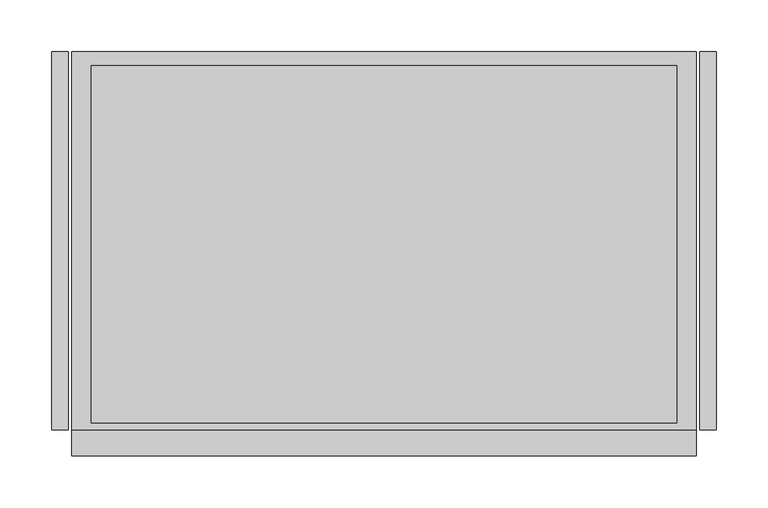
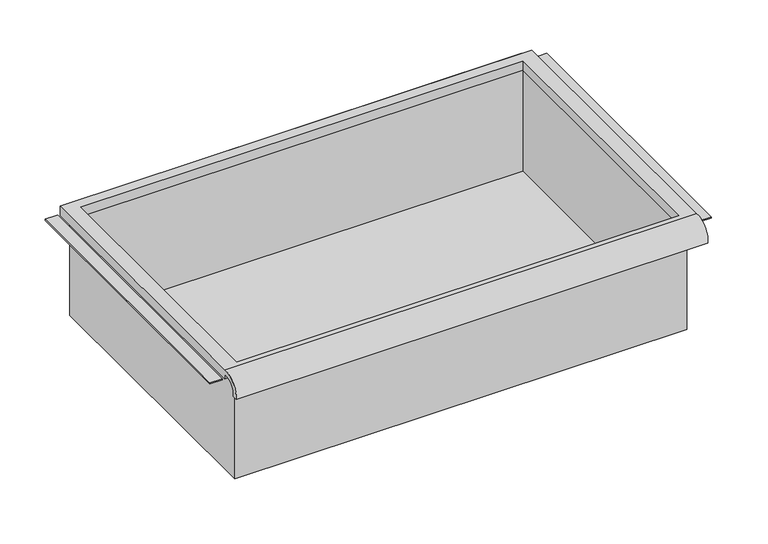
"""IFC4 building model written with IfcOpenShell, lengths in millimetres: furniture geometry."""

from ifc_helpers import new_model, si_unit, frame, origin, place, context, project, spatial, polyline, circle_curve, faceted_brep, source, transform, mapped, element, save
from ifc_brep_helpers import plane_surface, cylinder_surface, revolved_surface, advanced_brep


def furniture_ea94e118(model_context):
    return source(origin(), model_context, "Body", "SolidModel", [
        advanced_brep(
        [(305.0224999, -195.297482, 815.1849529), (305.0224999, -188.9125, 815.1849529), (305.0224999, -169.8625, 833.4464261), (305.0224999, -169.8625, 827.0964246), (305.0224999, 195.2625, 827.0964246), (305.0224999, 195.2625, 839.7964261), (305.0224999, -169.8625, 839.7964261), (-298.2275001, -195.297482, 815.1849529), (-298.2275001, -169.8625, 839.7964261), (-298.2275001, 195.2625, 839.7964261), (-298.2275001, 195.2625, 827.0964246), (-298.2275001, -169.8625, 827.0964246), (-298.2275001, -169.8625, 833.4464261), (-298.2275001, -188.9125, 815.1849529), (285.9725003, 181.9275, 827.0964246), (-279.1775005, 181.9275, 827.0964246), (-279.1775005, -163.5125, 827.0964246), (285.9725003, -163.5125, 827.0964246), (-279.1775005, 181.9275, 839.7964261), (285.9725003, 181.9275, 839.7964261), (285.9725003, -163.5125, 839.7964261), (-279.1775005, -163.5125, 839.7964261)],
        [
            (0, 1),
            (1, 2, circle_curve(frame((305.0224999, -172.3404634, 816.9643633), z_axis=(-1.0, 0.0, 0.0), x_axis=(0.0, 1.0, 0.0)), 16.6672942)),
            (2, 3),
            (3, 4),
            (4, 5),
            (5, 6),
            (6, 0, circle_curve(frame((305.0224999, -172.4601678, 817.0322533), z_axis=(1.0, 0.0, 0.0), x_axis=(0.0, 1.0, 0.0)), 22.9119061)),
            (7, 8, circle_curve(frame((-298.2275001, -172.4601678, 817.0322533), z_axis=(-1.0, 0.0, 0.0), x_axis=(0.0, 1.0, 0.0)), 22.9119061)),
            (8, 9),
            (9, 10),
            (10, 11),
            (11, 12),
            (12, 13, circle_curve(frame((-298.2275001, -172.3404634, 816.9643633), z_axis=(1.0, 0.0, 0.0), x_axis=(0.0, 1.0, 0.0)), 16.6672942)),
            (13, 7),
            (0, 7),
            (13, 1),
            (12, 2),
            (11, 3),
            (10, 4),
            (14, 15),
            (15, 16),
            (16, 17),
            (17, 14),
            (9, 5),
            (8, 6),
            (18, 19),
            (19, 20),
            (20, 21),
            (21, 18),
            (14, 19),
            (18, 15),
            (21, 16),
            (20, 17),
        ],
        [
            plane_surface(frame((305.0224999, -195.297482, 815.1849529), z_axis=(1.0, 0.0, 0.0), x_axis=(0.0, 1.0, 0.0))),
            plane_surface(frame((-298.2275001, -195.297482, 815.1849529), z_axis=(-1.0, 0.0, 0.0), x_axis=(0.0, -1.0, 0.0))),
            plane_surface(frame((305.0224999, -195.297482, 815.1849529), z_axis=(0.0, 0.0, -1.0), x_axis=(-1.0, 0.0, 0.0))),
            revolved_surface(polyline([(-298.2275001, -155.67316920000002, 816.9643633), (305.0224999, -155.67316920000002, 816.9643633)]), (-298.2275001, -172.3404634, 816.9643633), (-1.0, 0.0, 0.0)),
            plane_surface(frame((305.0224999, -169.8625, 833.4464261), z_axis=(0.0, -1.0, 1.5134556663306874e-12), x_axis=(-1.0, 0.0, 0.0))),
            plane_surface(frame((305.0224999, -169.8625, 827.0964246), z_axis=(0.0, 0.0, -1.0), x_axis=(-1.0, 0.0, 0.0))),
            plane_surface(frame((305.0224999, 195.2625, 827.0964246), z_axis=(0.0, 1.0, 0.0), x_axis=(-1.0, 0.0, 0.0))),
            plane_surface(frame((305.0224999, 195.2625, 839.7964261), z_axis=(0.0, 0.0, 1.0), x_axis=(-1.0, 0.0, 0.0))),
            cylinder_surface(frame((-298.2275001, -172.4601678, 817.0322533), z_axis=(1.0, 0.0, 0.0), x_axis=(0.0, 1.0, 0.0)), 22.9119061),
            plane_surface(frame((285.9725003, 181.9275, 839.7964261), z_axis=(0.0, -1.0, 0.0), x_axis=(0.0, 0.0, -1.0))),
            plane_surface(frame((-279.1775005, 181.9275, 839.7964261), z_axis=(1.0, 0.0, 0.0), x_axis=(0.0, 0.0, -1.0))),
            plane_surface(frame((-279.1775005, -163.5125, 839.7964261), z_axis=(0.0, 1.0, 0.0), x_axis=(0.0, 0.0, -1.0))),
            plane_surface(frame((285.9725003, -163.5125, 839.7964261), z_axis=(-1.0, 0.0, 0.0), x_axis=(0.0, 0.0, -1.0))),
        ],
        [
            (0, [[1, 2, 3, 4, 5, 6, 7]]),
            (1, [[8, 9, 10, 11, 12, 13, 14]]),
            (2, [[-1, 15, -14, 16]]),
            (3, [[-2, -16, -13, 17]]),
            (4, [[-3, -17, -12, 18]]),
            (5, [[-4, -18, -11, 19], [20, 21, 22, 23]]),
            (6, [[-5, -19, -10, 24]]),
            (7, [[-6, -24, -9, 25], [26, 27, 28, 29]]),
            (8, [[-7, -25, -8, -15]]),
            (9, [[30, -26, 31, -20]]),
            (10, [[-31, -29, 32, -21]]),
            (11, [[-32, -28, 33, -22]]),
            (12, [[-30, -23, -33, -27]]),
        ],
    ),
        faceted_brep([(-285.5275005, -169.8625, 687.3964261), (292.3225003, -169.8625, 687.3964261), (292.3225003, -169.8625, 839.7964261), (-285.5275005, -169.8625, 839.7964261), (-285.5275005, 195.2625, 687.3964261), (-285.5275005, 195.2625, 839.7964261), (292.3225003, 195.2625, 839.7964261), (292.3225003, 195.2625, 687.3964261), (-279.1775005, 181.9275, 839.7964261), (285.9725003, 181.9275, 839.7964261), (285.9725003, -163.5125, 839.7964261), (-279.1775005, -163.5125, 839.7964261), (285.9725003, 181.9275, 690.422598), (-279.1775005, 181.9275, 690.422598), (-279.1775005, -163.5125, 690.422598), (285.9725003, -163.5125, 690.422598)], [[[0, 1, 2, 3]], [[4, 5, 6, 7]], [[1, 0, 4, 7]], [[2, 1, 7, 6]], [[3, 2, 6, 5], [8, 9, 10, 11]], [[0, 3, 5, 4]], [[12, 13, 14, 15]], [[13, 12, 9, 8]], [[14, 13, 8, 11]], [[15, 14, 11, 10]], [[12, 15, 10, 9]]]),
        faceted_brep([(-317.2774997, 195.2625, 827.0964246), (-317.2774997, 195.2625, 828.6839246), (-301.4025001, 195.2625, 828.6839246), (-301.4025001, 195.2625, 827.0964246), (-317.2774997, -169.8625, 827.0964246), (-301.4025001, -169.8625, 827.0964246), (-301.4025001, -169.8625, 828.6839246), (-317.2774997, -169.8625, 828.6839246)], [[[0, 1, 2, 3]], [[4, 5, 6, 7]], [[1, 0, 4, 7]], [[2, 1, 7, 6]], [[3, 2, 6, 5]], [[0, 3, 5, 4]]]),
        faceted_brep([(324.0725245, 195.2625, 827.0964246), (308.1974999, 195.2625, 827.0964246), (308.1974999, 195.2625, 828.6839246), (324.0725245, 195.2625, 828.6839246), (324.0725245, -169.8625, 827.0964246), (324.0725245, -169.8625, 828.6839246), (308.1974999, -169.8625, 828.6839246), (308.1974999, -169.8625, 827.0964246)], [[[0, 1, 2, 3]], [[4, 5, 6, 7]], [[1, 0, 4, 7]], [[2, 1, 7, 6]], [[3, 2, 6, 5]], [[0, 3, 5, 4]]]),
    ])


if __name__ == "__main__":
    model = new_model("IFC4")
    model_context = context("Model", 3, world=origin())
    ifc_project = project(units=[si_unit("LENGTHUNIT", "METRE", prefix="MILLI")], contexts=[model_context])
    site = spatial("IfcSite", under=ifc_project)
    building = spatial("IfcBuilding", under=site)
    placement = place(None, origin())
    furniture_shape = furniture_ea94e118(model_context)
    element("IfcFurniture", 1, ObjectType="HermanMiller_Carts_CT511_Drawer : 6\"H x 15\"D x 24\"W", at=placement, inside=building, context=model_context, shape_type="MappedRepresentation", body=[
        mapped(furniture_shape, transform((0.0, 0.0, 0.0), x_axis=(1.0, 0.0, 0.0), y_axis=(0.0, 1.0, 0.0), z_axis=(0.0, 0.0, 1.0))),
    ])
    save(model, "model.ifc")
